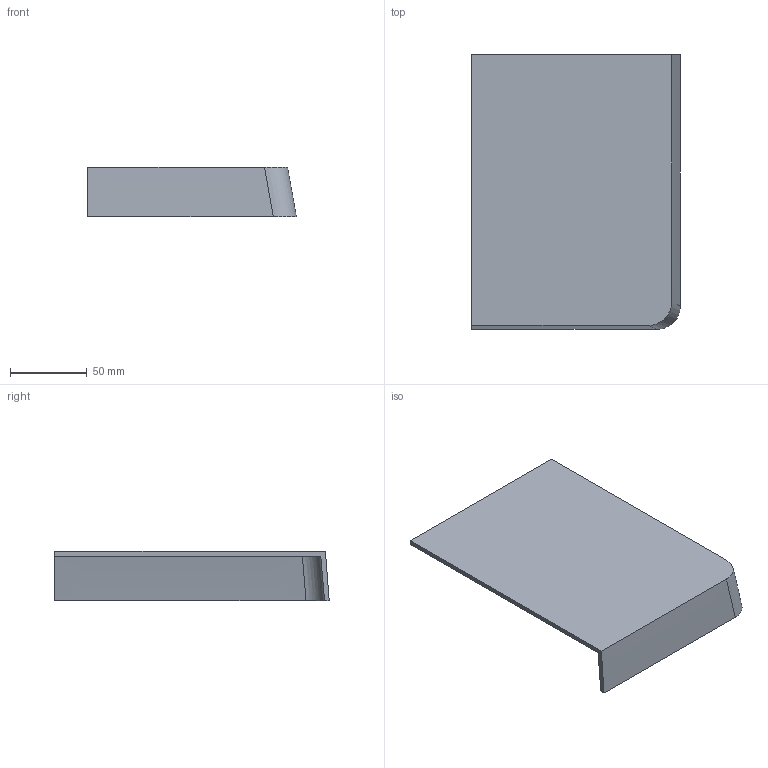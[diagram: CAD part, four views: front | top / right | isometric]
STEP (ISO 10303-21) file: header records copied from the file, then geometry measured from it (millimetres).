
FILE_DESCRIPTION(('Open CASCADE Model'),'2;1');
FILE_NAME('Open CASCADE Shape Model','2026-11-03T04:29:31',('Author'),( 'Open CASCADE'),'Open CASCADE STEP processor 7.8','Open CASCADE 7.8' ,'Unknown');
FILE_SCHEMA(('AUTOMOTIVE_DESIGN { 1 0 10303 214 1 1 1 1 }'));
Length unit declared in the file: millimetre
Products named in the file (1): Open CASCADE STEP translator 7.8 15
Bounding box: 135.7 x 178.46 x 32 mm (x, y, z)
Volume: 97065.6 mm3; surface area: 65418.5 mm2
Topology: 1 solids, 1 shells, 11 faces, 27 edges, 18 vertices
Faces by surface type: bspline 6, plane 5
Entity records: 1184 total; most frequent: CARTESIAN_POINT 723, ORIENTED_EDGE 54, PCURVE 54, DEFINITIONAL_REPRESENTATION 54, DIRECTION 47, B_SPLINE_CURVE_WITH_KNOTS 46, LINE 35, VECTOR 35
